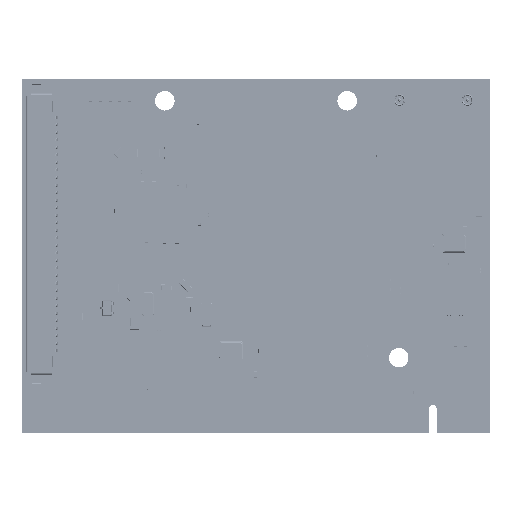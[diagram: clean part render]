
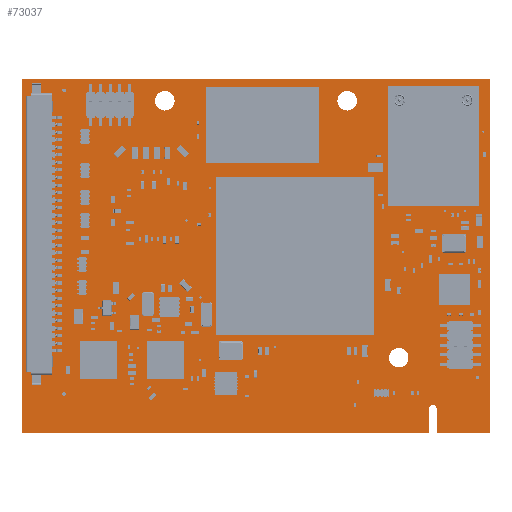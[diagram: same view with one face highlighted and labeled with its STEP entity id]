
A CAD part, top view. The second image highlights one B-rep face of the part: STEP entity #73037.
In plain terms, the highlighted planar face has unit normal (0, 0, 1).
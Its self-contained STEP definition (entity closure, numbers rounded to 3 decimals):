
#58504=FACE_OUTER_BOUND($,#63400,.F.);
#58514=FACE_OUTER_BOUND($,#63410,.T.);
#58518=FACE_OUTER_BOUND($,#63414,.T.);
#58522=FACE_OUTER_BOUND($,#63418,.T.);
#63400=EDGE_LOOP($,(#91247,#91248,#91249,#91250,#91251,#91252,#91253,#91254));
#63410=EDGE_LOOP($,(#91295,#91296));
#63414=EDGE_LOOP($,(#91307,#91308));
#63418=EDGE_LOOP($,(#91319,#91320));
#69253=PLANE($,#81630);
#73037=ADVANCED_FACE($,(#58504,#58514,#58518,#58522),#69253,.T.);
#78560=CIRCLE($,#81629,0.502);
#78562=CIRCLE($,#81641,1.295);
#78563=CIRCLE($,#81642,1.295);
#78566=CIRCLE($,#81647,1.295);
#78567=CIRCLE($,#81648,1.295);
#78570=CIRCLE($,#81653,1.295);
#78571=CIRCLE($,#81654,1.295);
#81629=AXIS2_PLACEMENT_3D($,#205270,#173429,$);
#81630=AXIS2_PLACEMENT_3D($,#205262,#173429,$);
#81641=AXIS2_PLACEMENT_3D($,#205285,#173429,$);
#81642=AXIS2_PLACEMENT_3D($,#205286,#173429,$);
#81647=AXIS2_PLACEMENT_3D($,#205297,#173429,$);
#81648=AXIS2_PLACEMENT_3D($,#205298,#173429,$);
#81653=AXIS2_PLACEMENT_3D($,#205309,#173429,$);
#81654=AXIS2_PLACEMENT_3D($,#205310,#173429,$);
#91247=ORIENTED_EDGE($,*,*,#120367,.T.);
#91248=ORIENTED_EDGE($,*,*,#120368,.T.);
#91249=ORIENTED_EDGE($,*,*,#120369,.T.);
#91250=ORIENTED_EDGE($,*,*,#120370,.T.);
#91251=ORIENTED_EDGE($,*,*,#120371,.T.);
#91252=ORIENTED_EDGE($,*,*,#120372,.T.);
#91253=ORIENTED_EDGE($,*,*,#120373,.T.);
#91254=ORIENTED_EDGE($,*,*,#120374,.T.);
#91295=ORIENTED_EDGE($,*,*,#120392,.T.);
#91296=ORIENTED_EDGE($,*,*,#120393,.T.);
#91307=ORIENTED_EDGE($,*,*,#120399,.T.);
#91308=ORIENTED_EDGE($,*,*,#120400,.T.);
#91319=ORIENTED_EDGE($,*,*,#120406,.T.);
#91320=ORIENTED_EDGE($,*,*,#120407,.T.);
#120367=EDGE_CURVE($,#162246,#162247,#148591,.T.);
#120368=EDGE_CURVE($,#162247,#162248,#148592,.T.);
#120369=EDGE_CURVE($,#162248,#162249,#148593,.T.);
#120370=EDGE_CURVE($,#162249,#162250,#148594,.T.);
#120371=EDGE_CURVE($,#162250,#162251,#148595,.T.);
#120372=EDGE_CURVE($,#162251,#162252,#148596,.T.);
#120373=EDGE_CURVE($,#162252,#162253,#148597,.T.);
#120374=EDGE_CURVE($,#162253,#162246,#78560,.T.);
#120392=EDGE_CURVE($,#162264,#162265,#78562,.F.);
#120393=EDGE_CURVE($,#162265,#162264,#78563,.F.);
#120399=EDGE_CURVE($,#162270,#162271,#78566,.F.);
#120400=EDGE_CURVE($,#162271,#162270,#78567,.F.);
#120406=EDGE_CURVE($,#162276,#162277,#78570,.F.);
#120407=EDGE_CURVE($,#162277,#162276,#78571,.F.);
#134936=VECTOR($,#173432,3.294);
#134937=VECTOR($,#173433,54.03);
#134938=VECTOR($,#173434,47.);
#134939=VECTOR($,#173435,62.11);
#134940=VECTOR($,#173436,47.);
#134941=VECTOR($,#173437,7.08);
#134942=VECTOR($,#173438,3.294);
#148591=LINE($,#205261,#134936);
#148592=LINE($,#205262,#134937);
#148593=LINE($,#205263,#134938);
#148594=LINE($,#205264,#134939);
#148595=LINE($,#205265,#134940);
#148596=LINE($,#205266,#134941);
#148597=LINE($,#205267,#134942);
#162246=VERTEX_POINT($,#205261);
#162247=VERTEX_POINT($,#205262);
#162248=VERTEX_POINT($,#205263);
#162249=VERTEX_POINT($,#205264);
#162250=VERTEX_POINT($,#205265);
#162251=VERTEX_POINT($,#205266);
#162252=VERTEX_POINT($,#205267);
#162253=VERTEX_POINT($,#205268);
#162264=VERTEX_POINT($,#205282);
#162265=VERTEX_POINT($,#205283);
#162270=VERTEX_POINT($,#205294);
#162271=VERTEX_POINT($,#205295);
#162276=VERTEX_POINT($,#205306);
#162277=VERTEX_POINT($,#205307);
#173429=DIRECTION($,(0.,0.,1.));
#173432=DIRECTION($,(0.,-1.,0.));
#173433=DIRECTION($,(-1.,0.,0.));
#173434=DIRECTION($,(0.,1.,0.));
#173435=DIRECTION($,(1.,0.,0.));
#173436=DIRECTION($,(0.,-1.,0.));
#173437=DIRECTION($,(-1.,0.,0.));
#173438=DIRECTION($,(0.,1.,0.));
#205261=CARTESIAN_POINT('',(54.03,3.294,0.));
#205262=CARTESIAN_POINT('',(54.03,0.,0.));
#205263=CARTESIAN_POINT('',(0.,0.,0.));
#205264=CARTESIAN_POINT('',(0.,47.,0.));
#205265=CARTESIAN_POINT('',(62.11,47.,0.));
#205266=CARTESIAN_POINT('',(62.11,0.,0.));
#205267=CARTESIAN_POINT('',(55.03,0.,0.));
#205268=CARTESIAN_POINT('',(55.03,3.294,0.));
#205270=CARTESIAN_POINT('',(54.53,3.248,0.));
#205282=CARTESIAN_POINT('',(51.295,10.,0.));
#205283=CARTESIAN_POINT('',(48.705,10.,0.));
#205285=CARTESIAN_POINT('',(50.,10.,0.));
#205286=CARTESIAN_POINT('',(50.,10.,0.));
#205294=CARTESIAN_POINT('',(20.25,44.1,0.));
#205295=CARTESIAN_POINT('',(17.66,44.1,0.));
#205297=CARTESIAN_POINT('',(18.955,44.1,0.));
#205298=CARTESIAN_POINT('',(18.955,44.1,0.));
#205306=CARTESIAN_POINT('',(44.451,44.1,0.));
#205307=CARTESIAN_POINT('',(41.86,44.1,0.));
#205309=CARTESIAN_POINT('',(43.155,44.1,0.));
#205310=CARTESIAN_POINT('',(43.155,44.1,0.));
